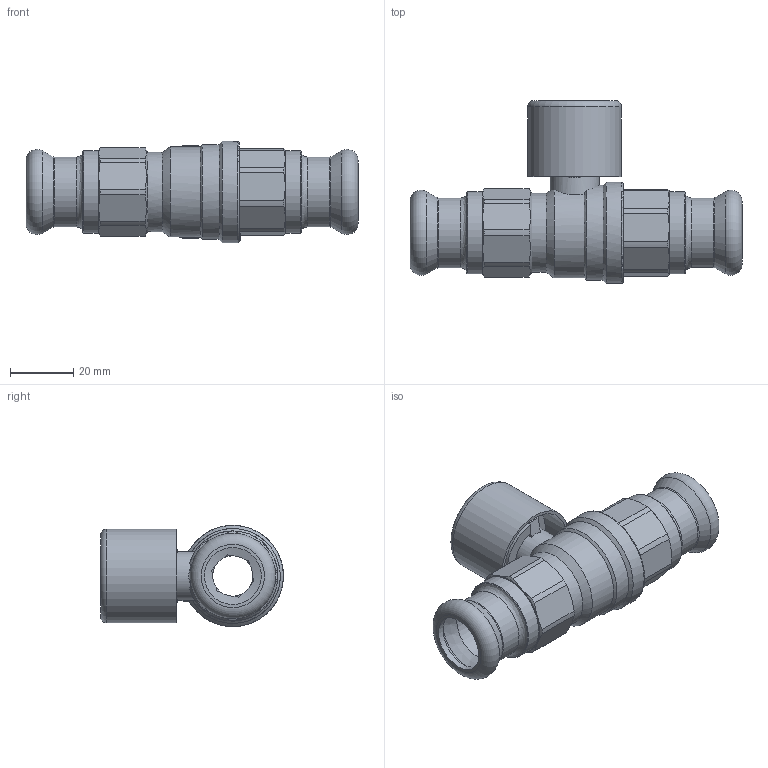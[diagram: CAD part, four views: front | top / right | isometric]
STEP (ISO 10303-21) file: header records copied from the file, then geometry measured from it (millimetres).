
FILE_DESCRIPTION((''),'2;1');
FILE_NAME('P:\Fastrack\53972_CRANE 3D\Press Fit\HATTERSLEY\100LS-PF\18MM\Fig_100LS-PF-18MM.stp','2011-12-07T10:38:06',('dcole'),(''),'Autodesk Inventor 2008','Autodesk Inventor 2008','');
FILE_SCHEMA(('AUTOMOTIVE_DESIGN { 1 0 10303 214 1 1 1 1 }'));
Length unit declared in the file: millimetre
Products named in the file (1): Fig_100LS-PF-18MM
Bounding box: 104.9 x 57.8 x 32 mm (x, y, z)
Volume: 45464.3 mm3; surface area: 27137.4 mm2
Topology: 1 solids, 1 shells, 323 faces, 983 edges, 690 vertices
Faces by surface type: plane 146, cylinder 77, cone 77, bspline 15, torus 8
Full cylindrical faces by diameter (mm): 2 x2, 8 x1, 8.1 x2, 8.3 x1, 10.5 x1, 10.6 x1, 10.75 x1, 14.8 x1, 15 x4, 15.5 x1, 16.2 x1, 18 x6, 18.631 x2, 22 x2, 25 x3, 26 x2, 27.6 x1, 29.6 x1, 30 x1, 32 x1
Entity records: 13582 total; most frequent: CARTESIAN_POINT 5246, ORIENTED_EDGE 1740, DIRECTION 1539, EDGE_CURVE 870, VERTEX_POINT 656, AXIS2_PLACEMENT_3D 592, EDGE_LOOP 454, VECTOR 355
